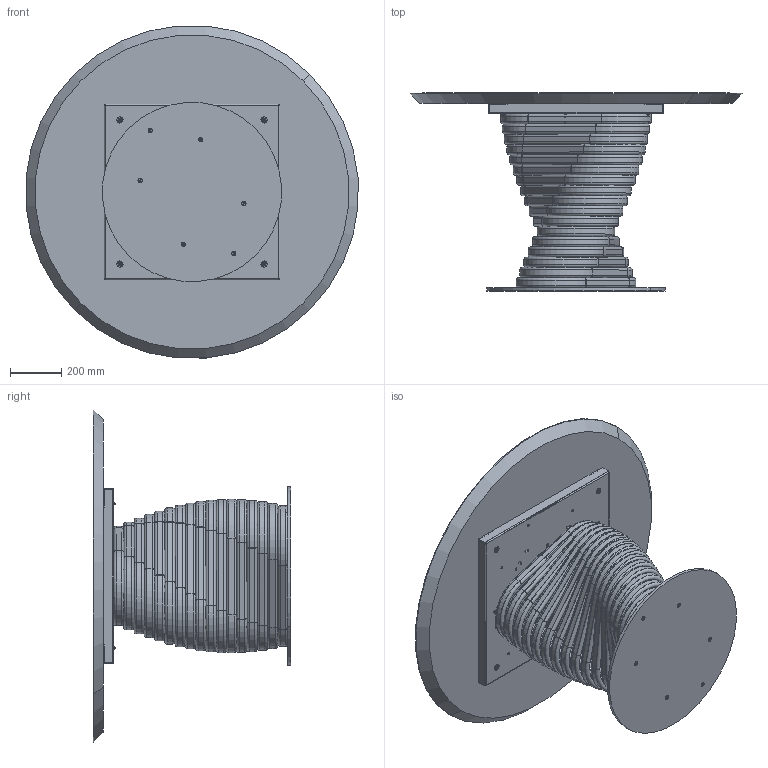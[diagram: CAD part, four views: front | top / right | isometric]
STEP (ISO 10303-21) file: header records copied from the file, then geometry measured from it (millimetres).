
FILE_DESCRIPTION (( 'STEP AP203' ), '1' );
FILE_NAME ('RO05W.STEP', '2024-08-07T13:08:13', ( '' ), ( '' ), 'SwSTEP 2.0', 'SolidWorks 2022', '' );
FILE_SCHEMA (( 'CONFIG_CONTROL_DESIGN' ));
Length unit declared in the file: millimetre
Products named in the file (15): TTAV0801-02-TELAIO UNIVERSALE TONDO; TTAV0801 TELAIO UNIVERSALE TONDO-PIASTRINA; rondella M8_8X24; ROB200000-00-PIASTRA BASE_Ø70cm; ROBX00000MED-00-Anello rotolo MEDIO_Default<A macchina>; W1XCMXX-00-Piani Rotondi legno_D.1300; M8xXXmm_hex_M8X20mm; RO05W; TTAV0801-02-TELAIO UNIVERSALE TONDO-VASSOIO; COLLO TELAIO UNIVERSALE TTAV0801 CON FERRAMENTA_MTG TOP LEGNO-MARMO-KING; ROBX00000SUP-00-Anello rotolo SUPERIORE_Default<A macchina>; ROBX00000-00-ROTOLO BASE 17 ANELLI; M8xXXmm_M8x20mm; M8xXXmm_M8x55mm; ROBX00000INF-00-Anello rotolo INFERIORE_Default<A macchina>
Assembly tree (49 placements, depth 4):
  RO05W
    ROB200000-00-PIASTRA BASE_Ø70cm
    ROBX00000-00-ROTOLO BASE 17 ANELLI
      ROBX00000INF-00-Anello rotolo INFERIORE_Default<A macchina>
      ROBX00000MED-00-Anello rotolo MEDIO_Default<A macchina>  x15
      ROBX00000SUP-00-Anello rotolo SUPERIORE_Default<A macchina>
    M8xXXmm_hex_M8X20mm  x6
    COLLO TELAIO UNIVERSALE TTAV0801 CON FERRAMENTA_MTG TOP LEGNO-MARMO-KING
      TTAV0801-02-TELAIO UNIVERSALE TONDO
        TTAV0801-02-TELAIO UNIVERSALE TONDO-VASSOIO
        TTAV0801 TELAIO UNIVERSALE TONDO-PIASTRINA  x4
      rondella M8_8X24  x4
      M8xXXmm_M8x55mm  x4
    rondella M8_8X24  x4
    M8xXXmm_M8x20mm  x4
    W1XCMXX-00-Piani Rotondi legno_D.1300
Bounding box: 1295.05 x 772 x 1295.05 mm (x, y, z)
Volume: 62156844.2 mm3; surface area: 9614495 mm2
Topology: 97 solids, 97 shells, 1790 faces, 4364 edges, 2740 vertices
Faces by surface type: plane 742, cylinder 650, torus 244, cone 154
Entity records: 23748 total; most frequent: CARTESIAN_POINT 5254, DIRECTION 3469, ORIENTED_EDGE 3242, EDGE_CURVE 1621, AXIS2_PLACEMENT_3D 1284, VERTEX_POINT 1039, VECTOR 901, LINE 901
